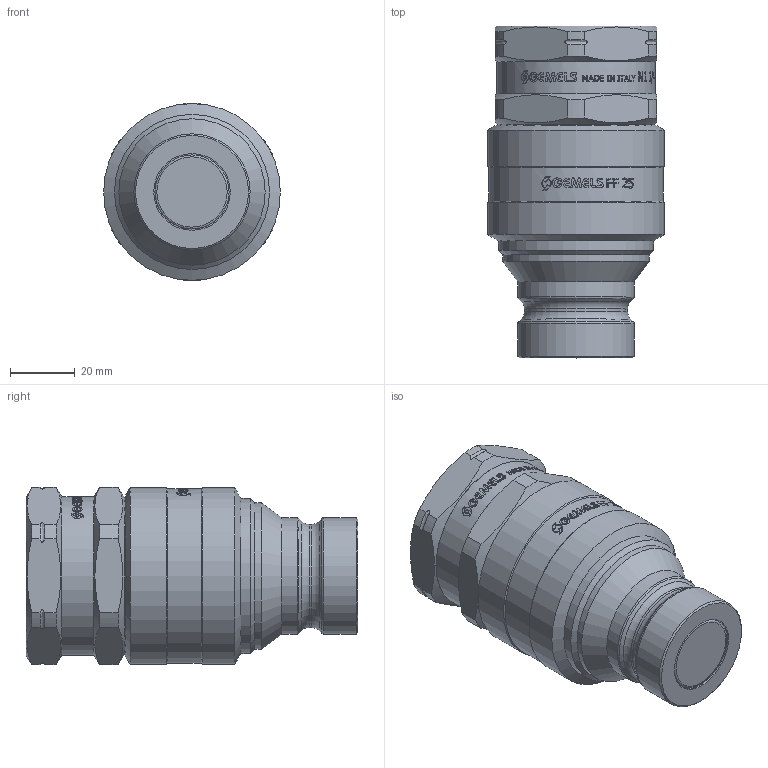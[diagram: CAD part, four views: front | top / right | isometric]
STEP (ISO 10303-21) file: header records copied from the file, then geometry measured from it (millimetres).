
FILE_DESCRIPTION(/* description */ (''),/* implementation_level */ '2;1');
FILE_NAME(/* name */ 'Parte23.stp',/* time_stamp */ '2024-08-26T17:28:10+02:00',/* author */ ('thomas.belotti'),/* organization */ (''),/* preprocessor_version */ 'ST-DEVELOPER v20',/* originating_system */ 'Autodesk Inventor 2024',/* authorisation */ '');
FILE_SCHEMA (('AUTOMOTIVE_DESIGN { 1 0 10303 214 3 1 1 }'));
Length unit declared in the file: millimetre
Products named in the file (1): Parte23
Bounding box: 54.7 x 102.7 x 54.99 mm (x, y, z)
Volume: 161075.1 mm3; surface area: 25426 mm2
Topology: 1 solids, 2 shells, 1084 faces, 3092 edges, 2055 vertices
Faces by surface type: bspline 688, plane 288, cylinder 79, cone 16, torus 13
Full cylindrical faces by diameter (mm): 23.7 x1, 31.9 x1, 36 x2, 42.114 x1, 45.3 x1, 46 x1, 46.3 x1, 48 x1, 49 x1, 54 x1, 54.7 x2
Entity records: 46572 total; most frequent: CARTESIAN_POINT 21702, ORIENTED_EDGE 6184, EDGE_CURVE 3092, DIRECTION 2843, VERTEX_POINT 2055, B_SPLINE_CURVE_WITH_KNOTS 1432, LINE 1223, VECTOR 1223
